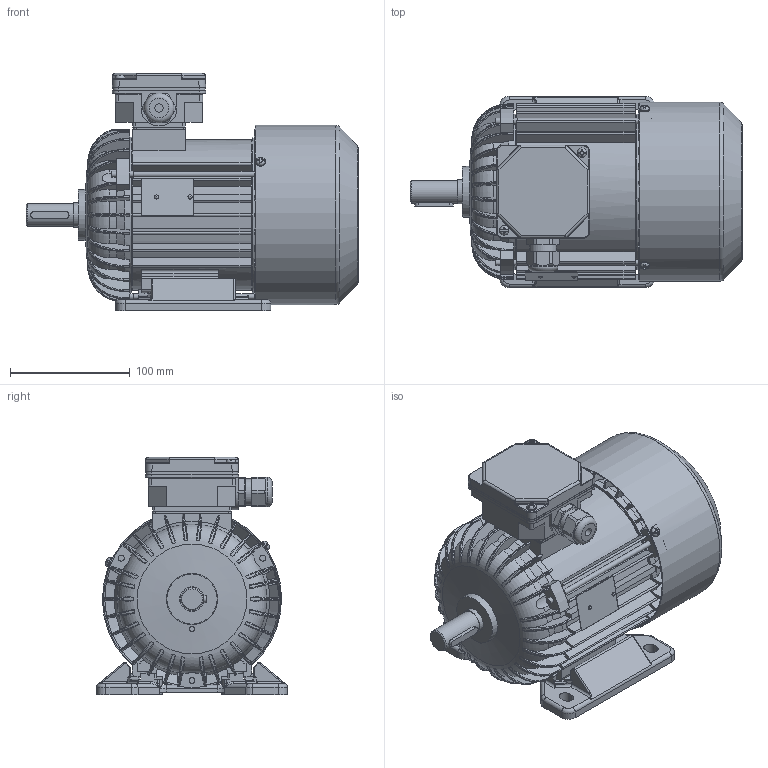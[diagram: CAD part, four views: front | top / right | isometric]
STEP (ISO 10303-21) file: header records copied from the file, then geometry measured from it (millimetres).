
FILE_DESCRIPTION(/* description */ ('Unknown'),/* implementation_level */ '2;1');
FILE_NAME(/* name */ 'Sh80-2B',/* time_stamp */ '2019-02-01T12:47:44+01:00',/* author */ ('Klaudiusz Szlosek'),/* organization */ ('BESEL S.A.'),/* preprocessor_version */ 'ST-DEVELOPER v16.7',/* originating_system */ 'DEX',/* authorisation */ $);
FILE_SCHEMA (('AP242_MANAGED_MODEL_BASED_3D_ENGINEERING_MIM_LF { 1 0 10303 442 1 1 4 }','AUTOMOTIVE_DESIGN {1 0 10303 214 3 1 1}'));
Length unit declared in the file: millimetre
Products named in the file (1): Sh80-2B
Bounding box: 277.78 x 160 x 198.5 mm (x, y, z)
Volume: 916333.9 mm3; surface area: 518590.9 mm2
Topology: 3 solids, 3 shells, 3004 faces, 8430 edges, 5453 vertices
Faces by surface type: plane 1413, cylinder 940, torus 282, cone 179, bspline 168, sphere 22
Full cylindrical faces by diameter (mm): 2 x2, 2.4 x2, 3.7 x8, 4 x5, 4.5 x1, 4.6 x3, 4.8 x2, 5 x8, 5.5 x3, 6.5 x4, 7 x1, 8 x9, 18.998 x1, 19.298 x1, 19.498 x1, 19.898 x1, 20.298 x2, 20.398 x2, 20.4 x2, 22.3 x1, 25 x1, 25.497 x1, 25.997 x2, 26.097 x1, 26.997 x1, 28.799 x4, 34 x2, 38.198 x4, 42 x3, 47 x3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
Entity records: 125819 total; most frequent: CARTESIAN_POINT 30080, ORIENTED_EDGE 16212, DIRECTION 14856, EDGE_CURVE 8106, AXIS2_PLACEMENT_3D 5456, VERTEX_POINT 5336, LINE 3944, VECTOR 3944
